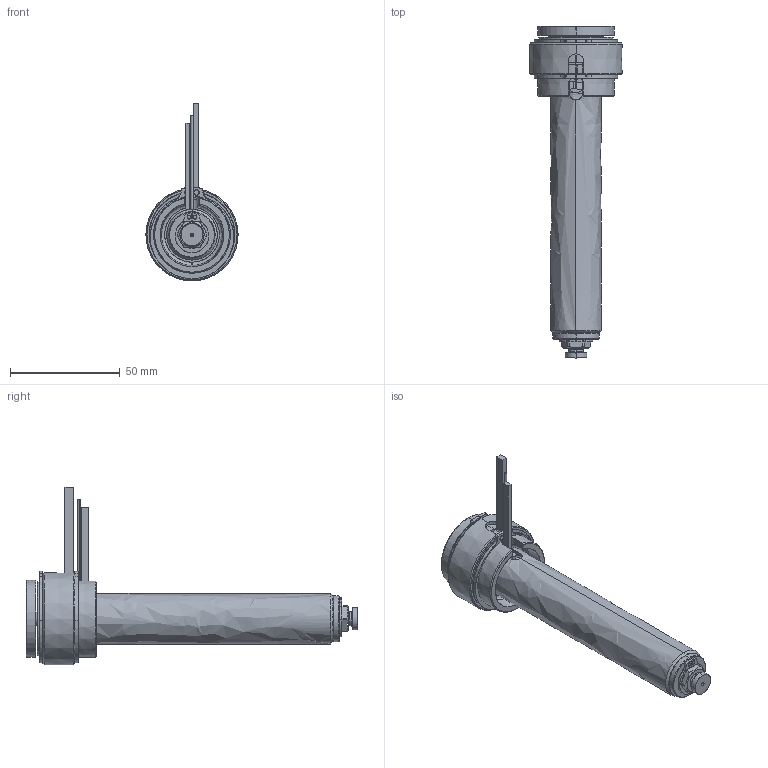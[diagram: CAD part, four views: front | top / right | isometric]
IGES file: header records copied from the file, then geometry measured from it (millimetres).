
Start section: SolidWorks IGES file using analytic representation for surfaces
Global section: file name: C:\Users\luca.EMPAD\Desktop\TEM\UGBE3503-S-A-3 [Ød-1.0 P-0 ØC-6.0].IGS; native system: SolidWorks 2012; preprocessor: SolidWorks 2012; author: luca; date: 120330.135441; units: millimetre
Bounding box: 42 x 151 x 80.9 mm (x, y, z)
Surface area: 37515.8 mm2 (no closed solid volume)
Topology: 0 solids, 0 shells, 193 faces, 3586 edges, 3586 vertices
Faces by surface type: revolution 124, bspline 69
